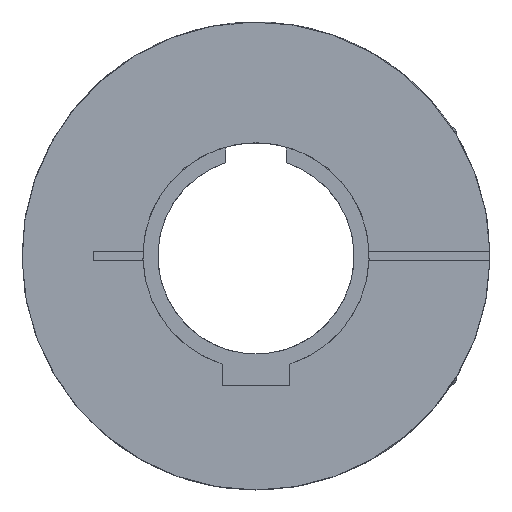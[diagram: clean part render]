
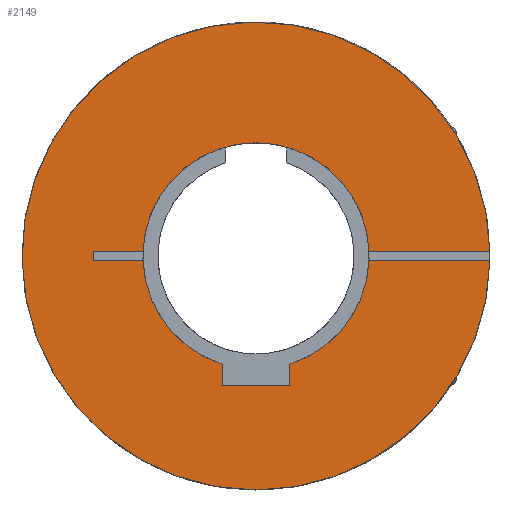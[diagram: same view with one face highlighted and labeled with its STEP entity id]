
A CAD part, left-side view. The second image highlights one B-rep face of the part: STEP entity #2149.
In plain terms, the highlighted planar face has unit normal (-1, 0, 0).
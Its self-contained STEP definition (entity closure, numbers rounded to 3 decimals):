
#33=PLANE('',#2451);
#198=LINE('',#3741,#319);
#201=LINE('',#3747,#322);
#202=LINE('',#3749,#323);
#206=LINE('',#3756,#327);
#210=LINE('',#3764,#331);
#212=LINE('',#3767,#333);
#213=LINE('',#3768,#334);
#214=LINE('',#3769,#335);
#319=VECTOR('',#2903,1.);
#322=VECTOR('',#2908,1.);
#323=VECTOR('',#2911,1.);
#327=VECTOR('',#2917,25.545);
#331=VECTOR('',#2925,25.545);
#333=VECTOR('',#2929,2.5);
#334=VECTOR('',#2930,44.532);
#335=VECTOR('',#2931,44.532);
#477=FACE_OUTER_BOUND('',#604,.T.);
#604=EDGE_LOOP('',(#1639,#1640,#1641,#1642,#1643,#1644,#1645,#1646,#1647,
#1648,#1649,#1650,#1651));
#797=CIRCLE('',#2403,62.);
#800=CIRCLE('',#2406,62.);
#823=CIRCLE('',#2439,30.);
#825=CIRCLE('',#2441,30.);
#826=CIRCLE('',#2443,30.);
#959=VERTEX_POINT('',#3581);
#960=VERTEX_POINT('',#3582);
#965=VERTEX_POINT('',#3592);
#1001=VERTEX_POINT('',#3714);
#1002=VERTEX_POINT('',#3716);
#1005=VERTEX_POINT('',#3722);
#1006=VERTEX_POINT('',#3724);
#1007=VERTEX_POINT('',#3728);
#1008=VERTEX_POINT('',#3729);
#1012=VERTEX_POINT('',#3739);
#1014=VERTEX_POINT('',#3745);
#1016=VERTEX_POINT('',#3754);
#1018=VERTEX_POINT('',#3763);
#1205=EDGE_CURVE('',#959,#960,#797,.T.);
#1211=EDGE_CURVE('',#960,#965,#800,.T.);
#1251=EDGE_CURVE('',#1002,#1001,#823,.T.);
#1255=EDGE_CURVE('',#1006,#1005,#825,.T.);
#1257=EDGE_CURVE('',#1007,#1008,#826,.T.);
#1263=EDGE_CURVE('',#1005,#1012,#198,.T.);
#1266=EDGE_CURVE('',#1012,#1014,#201,.T.);
#1267=EDGE_CURVE('',#1014,#1002,#202,.T.);
#1271=EDGE_CURVE('',#1016,#1001,#206,.T.);
#1275=EDGE_CURVE('',#1018,#1007,#210,.T.);
#1277=EDGE_CURVE('',#1018,#1016,#212,.T.);
#1278=EDGE_CURVE('',#959,#1008,#213,.T.);
#1279=EDGE_CURVE('',#965,#1006,#214,.T.);
#1639=ORIENTED_EDGE('',*,*,#1255,.T.);
#1640=ORIENTED_EDGE('',*,*,#1263,.T.);
#1641=ORIENTED_EDGE('',*,*,#1266,.T.);
#1642=ORIENTED_EDGE('',*,*,#1267,.T.);
#1643=ORIENTED_EDGE('',*,*,#1251,.T.);
#1644=ORIENTED_EDGE('',*,*,#1271,.F.);
#1645=ORIENTED_EDGE('',*,*,#1277,.F.);
#1646=ORIENTED_EDGE('',*,*,#1275,.T.);
#1647=ORIENTED_EDGE('',*,*,#1257,.T.);
#1648=ORIENTED_EDGE('',*,*,#1278,.F.);
#1649=ORIENTED_EDGE('',*,*,#1205,.T.);
#1650=ORIENTED_EDGE('',*,*,#1211,.T.);
#1651=ORIENTED_EDGE('',*,*,#1279,.T.);
#2149=ADVANCED_FACE('',(#477),#33,.T.);
#2403=AXIS2_PLACEMENT_3D('',#3583,#2802,#2803);
#2406=AXIS2_PLACEMENT_3D('',#3594,#2811,#2812);
#2439=AXIS2_PLACEMENT_3D('',#3717,#2882,#2883);
#2441=AXIS2_PLACEMENT_3D('',#3725,#2888,#2889);
#2443=AXIS2_PLACEMENT_3D('',#3730,#2893,#2894);
#2451=AXIS2_PLACEMENT_3D('',#3766,#2927,#2928);
#2802=DIRECTION('center_axis',(-1.,0.,0.));
#2803=DIRECTION('ref_axis',(0.,-1.,0.02));
#2811=DIRECTION('center_axis',(-1.,0.,0.));
#2812=DIRECTION('ref_axis',(0.,-1.,0.02));
#2882=DIRECTION('center_axis',(1.,0.,0.));
#2883=DIRECTION('ref_axis',(0.,0.,
-1.));
#2888=DIRECTION('center_axis',(1.,0.,0.));
#2889=DIRECTION('ref_axis',(0.,0.,
-1.));
#2893=DIRECTION('center_axis',(1.,0.,0.));
#2894=DIRECTION('ref_axis',(0.,0.,
-1.));
#2903=DIRECTION('',(0.,0.,-1.));
#2908=DIRECTION('',(0.,1.,0.));
#2911=DIRECTION('',(0.,0.,1.));
#2917=DIRECTION('',(0.,-1.,0.));
#2925=DIRECTION('',(0.,-1.,0.));
#2927=DIRECTION('center_axis',(-1.,0.,0.));
#2928=DIRECTION('ref_axis',(0.,-1.,0.));
#2929=DIRECTION('',(0.,0.,-1.));
#2930=DIRECTION('',(0.,1.,0.));
#2931=DIRECTION('',(0.,1.,0.));
#3581=CARTESIAN_POINT('',(0.,-61.987,1.25));
#3582=CARTESIAN_POINT('',(0.,61.987,-1.25));
#3583=CARTESIAN_POINT('Origin',(0.,0.,
0.));
#3592=CARTESIAN_POINT('',(0.,-61.987,-1.25));
#3594=CARTESIAN_POINT('Origin',(0.,0.,
0.));
#3714=CARTESIAN_POINT('',(0.,29.974,-1.25));
#3716=CARTESIAN_POINT('',(0.,9.,-28.618));
#3717=CARTESIAN_POINT('Origin',(0.,0.,0.));
#3722=CARTESIAN_POINT('',(0.,-9.,-28.618));
#3724=CARTESIAN_POINT('',(0.,-29.974,-1.25));
#3725=CARTESIAN_POINT('Origin',(0.,0.,0.));
#3728=CARTESIAN_POINT('',(0.,29.974,1.25));
#3729=CARTESIAN_POINT('',(0.,-29.974,1.25));
#3730=CARTESIAN_POINT('Origin',(0.,0.,0.));
#3739=CARTESIAN_POINT('',(0.,-9.,-34.4));
#3741=CARTESIAN_POINT('',(0.,-9.,-8.6));
#3745=CARTESIAN_POINT('',(0.,9.,-34.4));
#3747=CARTESIAN_POINT('',(0.,0.,-34.4));
#3749=CARTESIAN_POINT('',(0.,9.,-8.6));
#3754=CARTESIAN_POINT('',(0.,43.,-1.25));
#3756=CARTESIAN_POINT('',(0.,43.,-1.25));
#3763=CARTESIAN_POINT('',(0.,43.,1.25));
#3764=CARTESIAN_POINT('',(0.,43.,1.25));
#3766=CARTESIAN_POINT('Origin',(0.,0.,
0.));
#3767=CARTESIAN_POINT('',(0.,43.,1.25));
#3768=CARTESIAN_POINT('',(0.,-61.987,1.25));
#3769=CARTESIAN_POINT('',(0.,-61.987,-1.25));
